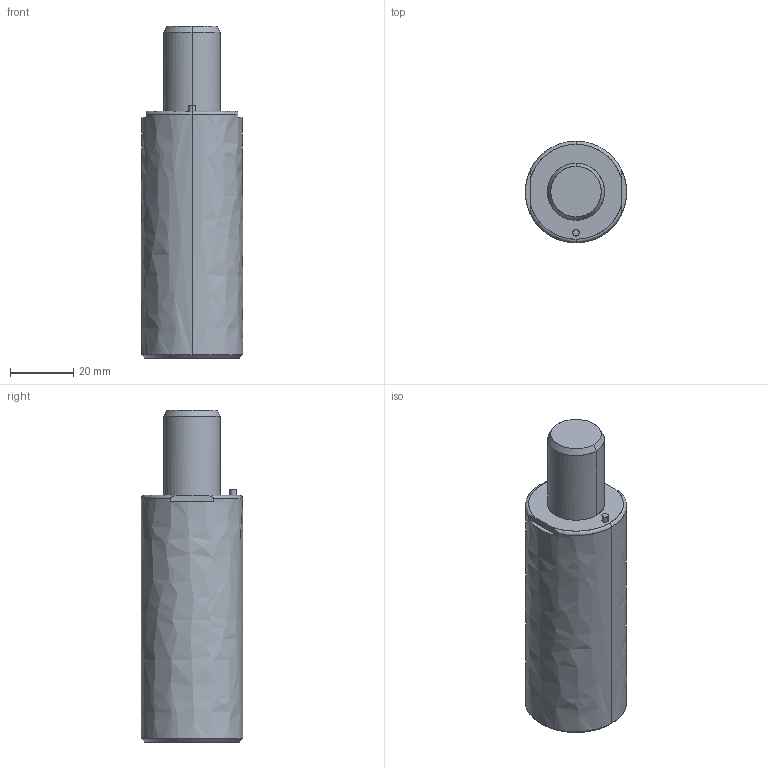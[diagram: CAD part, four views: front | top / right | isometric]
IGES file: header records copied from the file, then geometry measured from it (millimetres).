
Global section: file name: E:\UnigraphicsGraphicData\MISUMI_PRESS-PARTS\IGES\3d_gsx32-25_03995_r00.igs; native system: NX V5.0; preprocessor: UGS NX IGES V5.0; author: MISUMI; date: 20110105.160821; units: millimetre
Bounding box: 32 x 32 x 105 mm (x, y, z)
Surface area: 11731.8 mm2 (no closed solid volume)
Topology: 0 solids, 0 shells, 45 faces, 308 edges, 304 vertices
Faces by surface type: bspline 45
